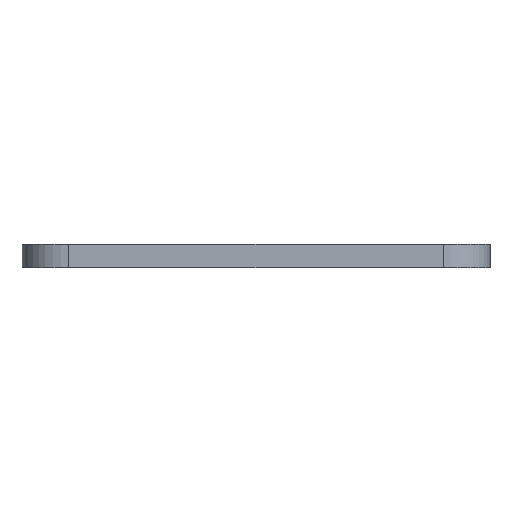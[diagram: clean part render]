
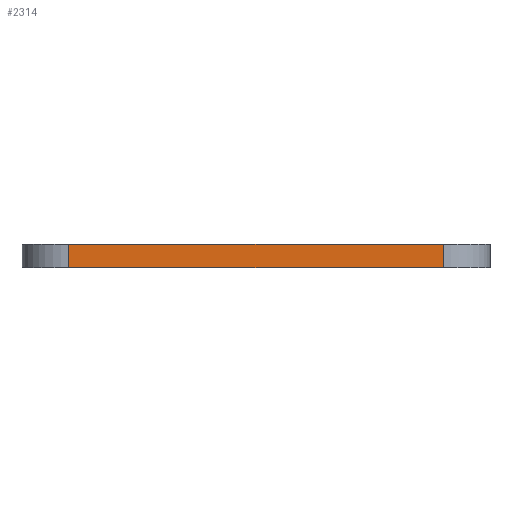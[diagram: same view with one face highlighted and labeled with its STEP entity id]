
A CAD part, left-side view. The second image highlights one B-rep face of the part: STEP entity #2314.
In plain terms, the highlighted planar face has unit normal (-1, 0, 0).
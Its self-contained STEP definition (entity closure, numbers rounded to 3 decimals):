
#129 = CARTESIAN_POINT ( 'NONE',  ( -50., 110., 10. ) ) ;
#134 = VECTOR ( 'NONE', #2365, 1000. ) ;
#286 = VECTOR ( 'NONE', #3492, 1000. ) ;
#358 = CARTESIAN_POINT ( 'NONE',  ( -50., 110., 10. ) ) ;
#545 = EDGE_CURVE ( 'NONE', #3076, #866, #2661, .T. ) ;
#647 = DIRECTION ( 'NONE',  ( 0., 0., 1. ) ) ;
#726 = CARTESIAN_POINT ( 'NONE',  ( -50., -70., 0. ) ) ;
#866 = VERTEX_POINT ( 'NONE', #129 ) ;
#914 = VERTEX_POINT ( 'NONE', #2510 ) ;
#928 = CARTESIAN_POINT ( 'NONE',  ( -50., -70., 10. ) ) ;
#1009 = EDGE_LOOP ( 'NONE', ( #3095, #2550, #3201, #2733 ) ) ;
#1077 = CARTESIAN_POINT ( 'NONE',  ( -50., -50., 0. ) ) ;
#1763 = CARTESIAN_POINT ( 'NONE',  ( -50., -50., 10. ) ) ;
#1777 = VECTOR ( 'NONE', #2860, 1000. ) ;
#1917 = FACE_OUTER_BOUND ( 'NONE', #1009, .T. ) ;
#1966 = PLANE ( 'NONE',  #3697 ) ;
#2127 = DIRECTION ( 'NONE',  ( 0., 1., 0. ) ) ;
#2314 = ADVANCED_FACE ( 'NONE', ( #1917 ), #1966, .T. ) ;
#2365 = DIRECTION ( 'NONE',  ( 0., 0., 1. ) ) ;
#2376 = EDGE_CURVE ( 'NONE', #3035, #914, #3447, .T. ) ;
#2470 = CARTESIAN_POINT ( 'NONE',  ( -50., -50., 10. ) ) ;
#2510 = CARTESIAN_POINT ( 'NONE',  ( -50., 110., 0. ) ) ;
#2550 = ORIENTED_EDGE ( 'NONE', *, *, #2600, .T. ) ;
#2591 = LINE ( 'NONE', #358, #1777 ) ;
#2600 = EDGE_CURVE ( 'NONE', #3035, #3076, #3601, .T. ) ;
#2656 = DIRECTION ( 'NONE',  ( -1., 0., 0. ) ) ;
#2661 = LINE ( 'NONE', #3243, #3374 ) ;
#2733 = ORIENTED_EDGE ( 'NONE', *, *, #3456, .T. ) ;
#2860 = DIRECTION ( 'NONE',  ( 0., 0., -1. ) ) ;
#3035 = VERTEX_POINT ( 'NONE', #1077 ) ;
#3076 = VERTEX_POINT ( 'NONE', #2470 ) ;
#3095 = ORIENTED_EDGE ( 'NONE', *, *, #2376, .F. ) ;
#3201 = ORIENTED_EDGE ( 'NONE', *, *, #545, .T. ) ;
#3243 = CARTESIAN_POINT ( 'NONE',  ( -50., -70., 10. ) ) ;
#3374 = VECTOR ( 'NONE', #2127, 1000. ) ;
#3447 = LINE ( 'NONE', #726, #286 ) ;
#3456 = EDGE_CURVE ( 'NONE', #866, #914, #2591, .T. ) ;
#3492 = DIRECTION ( 'NONE',  ( 0., 1., 0. ) ) ;
#3601 = LINE ( 'NONE', #1763, #134 ) ;
#3697 = AXIS2_PLACEMENT_3D ( 'NONE', #928, #2656, #647 ) ;
